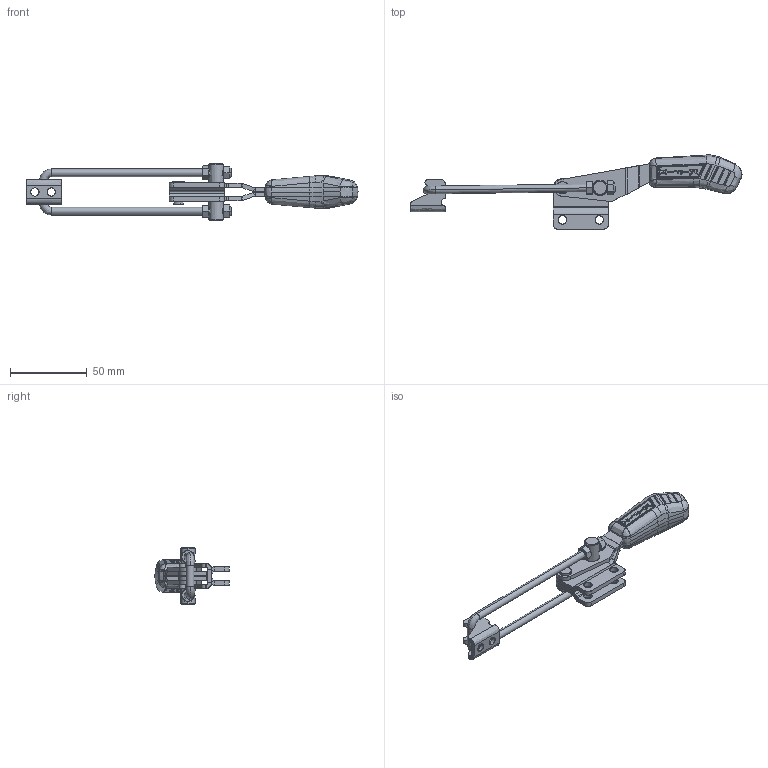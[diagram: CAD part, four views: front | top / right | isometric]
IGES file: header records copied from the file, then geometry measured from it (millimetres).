
Start section: SolidWorks IGES file using analytic representation for surfaces
Global section: file name: C:\Projetos\Grampos\KF-743\KF-743 RL\KF-743 RL.IGS; native system: SolidWorks 2013; preprocessor: SolidWorks 2013; author: Ricardo; date: 140821.134422; units: millimetre
Bounding box: 216.45 x 48.39 x 37 mm (x, y, z)
Surface area: 27149.2 mm2 (no closed solid volume)
Topology: 0 solids, 0 shells, 934 faces, 9117 edges, 9061 vertices
Faces by surface type: bspline 542, revolution 392
